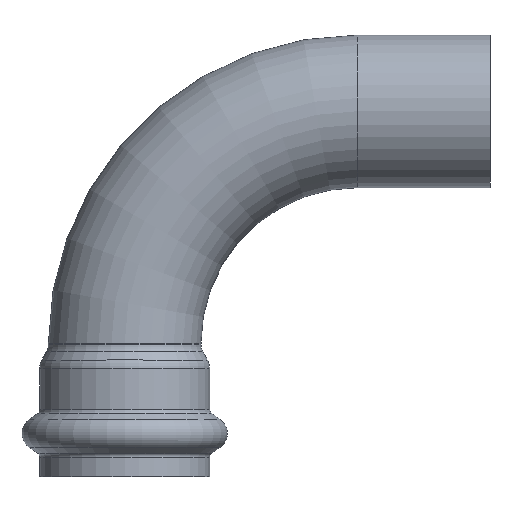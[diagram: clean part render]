
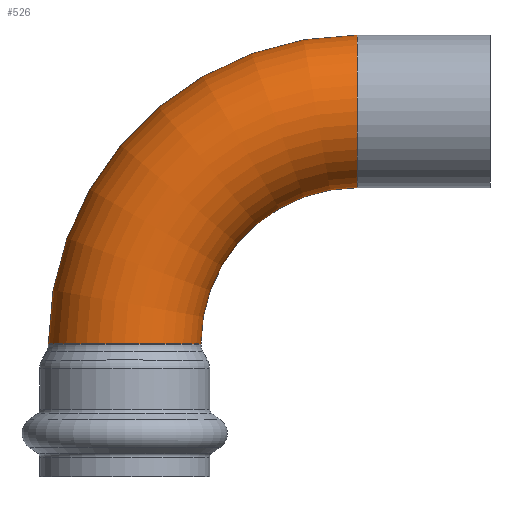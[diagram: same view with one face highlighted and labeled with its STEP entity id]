
A CAD part, top view. The second image highlights one B-rep face of the part: STEP entity #526.
In plain terms, the highlighted toroidal (fillet/blend) face has major radius 73.584 mm and minor radius 24.13 mm.
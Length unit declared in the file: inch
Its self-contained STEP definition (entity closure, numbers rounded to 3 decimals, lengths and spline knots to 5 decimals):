
#94=FACE_OUTER_BOUND('',#118,.T.);
#118=EDGE_LOOP('',(#359,#360,#361,#362,#363,#364));
#148=CIRCLE('',#576,0.95);
#149=CIRCLE('',#577,1.947);
#150=CIRCLE('',#578,0.95);
#151=CIRCLE('',#579,0.95);
#152=CIRCLE('',#580,0.95);
#215=VERTEX_POINT('',#912);
#216=VERTEX_POINT('',#913);
#217=VERTEX_POINT('',#915);
#218=VERTEX_POINT('',#917);
#276=EDGE_CURVE('',#215,#216,#148,.T.);
#277=EDGE_CURVE('',#216,#217,#149,.T.);
#278=EDGE_CURVE('',#217,#218,#150,.T.);
#279=EDGE_CURVE('',#218,#217,#151,.T.);
#280=EDGE_CURVE('',#216,#215,#152,.T.);
#359=ORIENTED_EDGE('',*,*,#276,.T.);
#360=ORIENTED_EDGE('',*,*,#277,.T.);
#361=ORIENTED_EDGE('',*,*,#278,.T.);
#362=ORIENTED_EDGE('',*,*,#279,.T.);
#363=ORIENTED_EDGE('',*,*,#277,.F.);
#364=ORIENTED_EDGE('',*,*,#280,.T.);
#518=TOROIDAL_SURFACE('',#575,2.897,0.95);
#526=ADVANCED_FACE('',(#94),#518,.T.);
#575=AXIS2_PLACEMENT_3D('',#911,#688,#689);
#576=AXIS2_PLACEMENT_3D('',#914,#690,#691);
#577=AXIS2_PLACEMENT_3D('',#916,#692,#693);
#578=AXIS2_PLACEMENT_3D('',#918,#694,#695);
#579=AXIS2_PLACEMENT_3D('',#919,#696,#697);
#580=AXIS2_PLACEMENT_3D('',#920,#698,#699);
#688=DIRECTION('center_axis',(0.,0.,1.));
#689=DIRECTION('ref_axis',(1.,0.,0.));
#690=DIRECTION('center_axis',(0.,1.,0.));
#691=DIRECTION('ref_axis',(1.,0.,0.));
#692=DIRECTION('center_axis',(0.,0.,-1.));
#693=DIRECTION('ref_axis',(1.,0.,0.));
#694=DIRECTION('center_axis',(-1.,0.,0.));
#695=DIRECTION('ref_axis',(0.,0.,-1.));
#696=DIRECTION('center_axis',(-1.,0.,0.));
#697=DIRECTION('ref_axis',(0.,0.,-1.));
#698=DIRECTION('center_axis',(0.,1.,0.));
#699=DIRECTION('ref_axis',(1.,0.,0.));
#911=CARTESIAN_POINT('Origin',(2.897,-2.897,0.));
#912=CARTESIAN_POINT('',(0.,-2.897,0.95));
#913=CARTESIAN_POINT('',(0.95,-2.897,0.));
#914=CARTESIAN_POINT('Origin',(0.,-2.897,0.));
#915=CARTESIAN_POINT('',(2.897,-0.95,0.));
#916=CARTESIAN_POINT('Origin',(2.897,-2.897,0.));
#917=CARTESIAN_POINT('',(2.897,0.,0.95));
#918=CARTESIAN_POINT('Origin',(2.897,0.,0.));
#919=CARTESIAN_POINT('Origin',(2.897,0.,0.));
#920=CARTESIAN_POINT('Origin',(0.,-2.897,0.));
